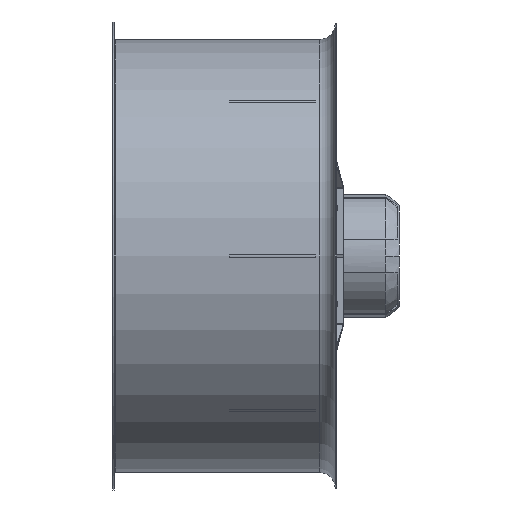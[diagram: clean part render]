
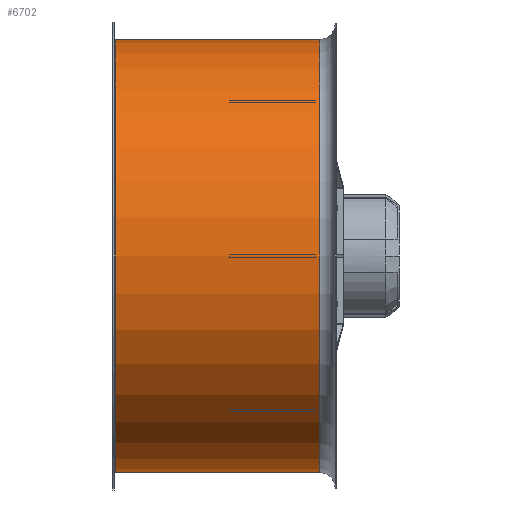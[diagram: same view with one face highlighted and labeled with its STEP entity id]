
A CAD part, front view. The second image highlights one B-rep face of the part: STEP entity #6702.
In plain terms, the highlighted cylindrical face has radius 629 mm (diameter 1258 mm), a partial arc.
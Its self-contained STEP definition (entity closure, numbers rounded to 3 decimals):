
#1023 = EDGE_LOOP ( 'NONE', ( #83442, #47782, #77576, #76944 ) ) ;
#3486 = VERTEX_POINT ( 'NONE', #45803 ) ;
#6642 = EDGE_CURVE ( 'NONE', #15008, #21768, #64976, .T. ) ;
#6672 = VERTEX_POINT ( 'NONE', #13666 ) ;
#6702 = ADVANCED_FACE ( 'NONE', ( #47585 ), #27151, .T. ) ;
#13666 = CARTESIAN_POINT ( 'NONE',  ( 601., 0., -629. ) ) ;
#14190 = DIRECTION ( 'NONE',  ( -1., 0., 0. ) ) ;
#14857 = AXIS2_PLACEMENT_3D ( 'NONE', #74496, #14190, #73647 ) ;
#15008 = VERTEX_POINT ( 'NONE', #61117 ) ;
#17730 = CARTESIAN_POINT ( 'NONE',  ( 7., 0., 0. ) ) ;
#19706 = CARTESIAN_POINT ( 'NONE',  ( 0., 0., 629. ) ) ;
#21592 = LINE ( 'NONE', #52682, #56541 ) ;
#21768 = VERTEX_POINT ( 'NONE', #73163 ) ;
#27151 = CYLINDRICAL_SURFACE ( 'NONE', #82968, 629. ) ;
#32492 = EDGE_CURVE ( 'NONE', #6672, #3486, #21592, .T. ) ;
#32493 = CIRCLE ( 'NONE', #60163, 629. ) ;
#32675 = DIRECTION ( 'NONE',  ( -1., 0., 0. ) ) ;
#37600 = DIRECTION ( 'NONE',  ( -1., 0., 0. ) ) ;
#45803 = CARTESIAN_POINT ( 'NONE',  ( 7., 0., -629. ) ) ;
#47585 = FACE_OUTER_BOUND ( 'NONE', #1023, .T. ) ;
#47782 = ORIENTED_EDGE ( 'NONE', *, *, #58227, .T. ) ;
#48451 = DIRECTION ( 'NONE',  ( -1., 0., 0. ) ) ;
#48623 = EDGE_CURVE ( 'NONE', #3486, #21768, #32493, .T. ) ;
#51636 = VECTOR ( 'NONE', #32675, 1000. ) ;
#52682 = CARTESIAN_POINT ( 'NONE',  ( 0., 0., -629. ) ) ;
#56541 = VECTOR ( 'NONE', #72218, 1000. ) ;
#58227 = EDGE_CURVE ( 'NONE', #6672, #15008, #75256, .T. ) ;
#60163 = AXIS2_PLACEMENT_3D ( 'NONE', #17730, #37600, #83437 ) ;
#61117 = CARTESIAN_POINT ( 'NONE',  ( 601., 0., 629. ) ) ;
#64976 = LINE ( 'NONE', #19706, #51636 ) ;
#72218 = DIRECTION ( 'NONE',  ( -1., 0., 0. ) ) ;
#73163 = CARTESIAN_POINT ( 'NONE',  ( 7., 0., 629. ) ) ;
#73647 = DIRECTION ( 'NONE',  ( 0., 0., 1. ) ) ;
#74496 = CARTESIAN_POINT ( 'NONE',  ( 601., 0., 0. ) ) ;
#75256 = CIRCLE ( 'NONE', #14857, 629. ) ;
#76944 = ORIENTED_EDGE ( 'NONE', *, *, #48623, .F. ) ;
#77576 = ORIENTED_EDGE ( 'NONE', *, *, #6642, .T. ) ;
#80253 = DIRECTION ( 'NONE',  ( 0., 0., 1. ) ) ;
#80528 = CARTESIAN_POINT ( 'NONE',  ( 0., 0., 0. ) ) ;
#82968 = AXIS2_PLACEMENT_3D ( 'NONE', #80528, #48451, #80253 ) ;
#83437 = DIRECTION ( 'NONE',  ( 0., 0., 1. ) ) ;
#83442 = ORIENTED_EDGE ( 'NONE', *, *, #32492, .F. ) ;
